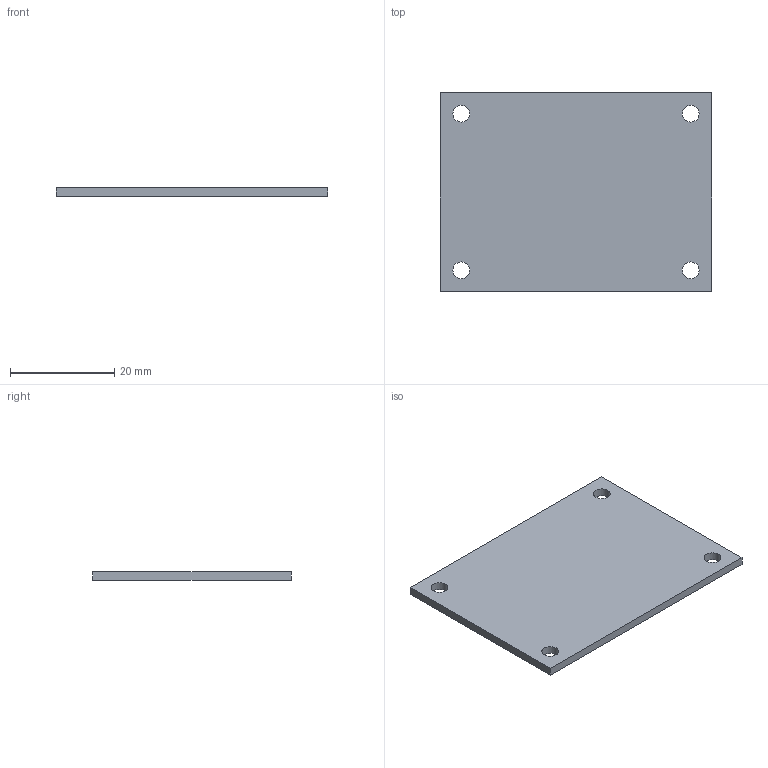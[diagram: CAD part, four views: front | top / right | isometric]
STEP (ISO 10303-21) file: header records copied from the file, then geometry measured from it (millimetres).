
FILE_DESCRIPTION(('Open CASCADE Model'),'2;1');
FILE_NAME('Open CASCADE Shape Model','2026-10-13T11:47:38',('Author'),( 'Open CASCADE'),'Open CASCADE STEP processor 7.8','Open CASCADE 7.8' ,'Unknown');
FILE_SCHEMA(('AUTOMOTIVE_DESIGN { 1 0 10303 214 1 1 1 1 }'));
Length unit declared in the file: millimetre
Products named in the file (1): Open CASCADE STEP translator 7.8 103
Bounding box: 52 x 38 x 1.6 mm (x, y, z)
Volume: 3110.1 mm3; surface area: 4240 mm2
Topology: 1 solids, 1 shells, 10 faces, 24 edges, 16 vertices
Faces by surface type: plane 6, cylinder 4
Full cylindrical faces by diameter (mm): 3.2 x4
Entity records: 658 total; most frequent: CARTESIAN_POINT 147, DIRECTION 94, LINE 56, VECTOR 56, ORIENTED_EDGE 48, PCURVE 48, DEFINITIONAL_REPRESENTATION 48, EDGE_CURVE 24
